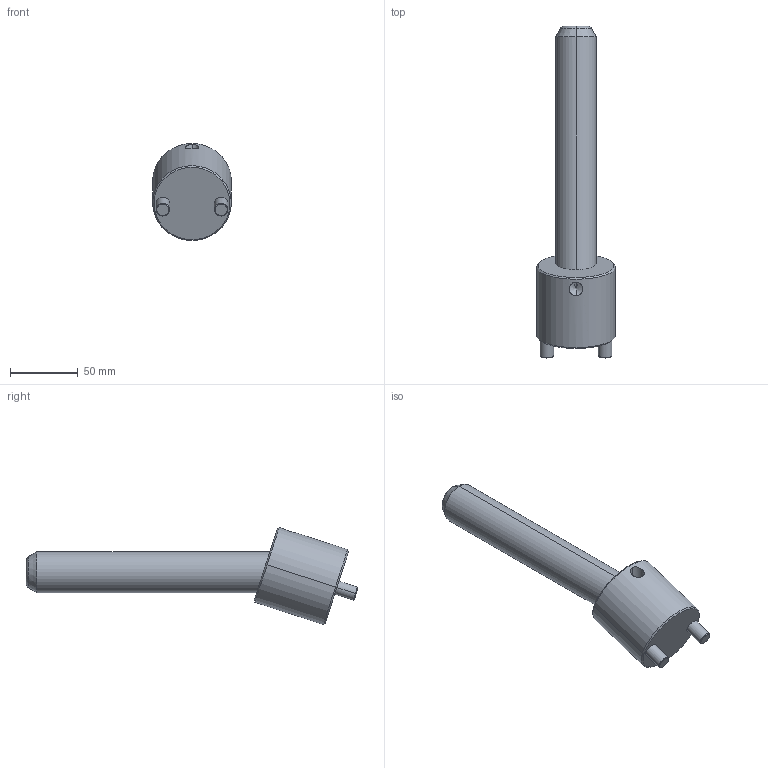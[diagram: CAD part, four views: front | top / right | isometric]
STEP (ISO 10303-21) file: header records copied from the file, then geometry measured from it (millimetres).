
FILE_DESCRIPTION(('CATIA V5 STEP Exchange'),'2;1');
FILE_NAME('C:\Users\Raffaele\Desktop\3D BOLEX\3D FILES CF BOLEX\19-INCLINED ASSEMBLY REF_CI\CI1830175.stp','2019-06-24T07:47:41+00:00',('none'),('none'),'CATIA Version 5 Release 20 GA (IN-10)','CATIA V5 STEP AP203','none');
FILE_SCHEMA(('CONFIG_CONTROL_DESIGN'));
Length unit declared in the file: millimetre
Products named in the file (1): CI1830175
Assembly tree (2 placements, depth 2):
  CI1830175
    #58
    #590
Bounding box: 58 x 244.82 x 71.54 mm (x, y, z)
Volume: 267431.5 mm3; surface area: 42543.8 mm2
Topology: 2 solids, 2 shells, 39 faces, 82 edges, 47 vertices
Faces by surface type: cone 14, cylinder 14, plane 7, torus 4
Entity records: 1563 total; most frequent: CARTESIAN_POINT 702, ORIENTED_EDGE 160, DIRECTION 146, EDGE_CURVE 80, AXIS2_PLACEMENT_3D 73, VERTEX_POINT 47, EDGE_LOOP 43, ADVANCED_FACE 39
